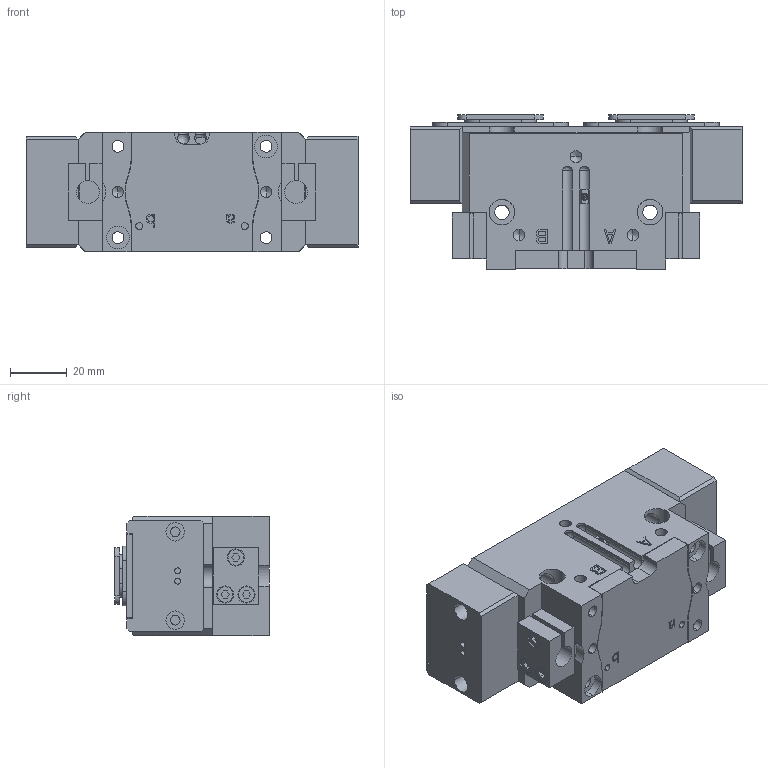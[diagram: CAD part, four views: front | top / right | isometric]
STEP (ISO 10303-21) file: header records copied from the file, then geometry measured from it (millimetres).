
FILE_DESCRIPTION (( 'STEP AP214' ), '1' );
FILE_NAME ('FPT 80A-1-SD.STEP', '2021-09-18T04:06:38', ( 'DEEP' ), ( 'Microsoft' ), 'SwSTEP 2.0', 'SolidWorks 2016', '' );
FILE_SCHEMA (( 'AUTOMOTIVE_DESIGN' ));
Length unit declared in the file: millimetre
Products named in the file (27): FPT80A-1-SD-004_1_1; FPT80A-1-SD-002_1_1; FPT 80A-1-SD; FPT80A-1_1_1; FPT80A-1-004_1_1; FPT80A-1-005_1_1; FPT80A-1-001_1_1; FPT80A-1-001-002_1_1; FPT80A-1-003_1_1; FPT80A-1-01-004_1; FPT80A-1-SD-001_1; FPT80A-1-SD-003_1_1
Assembly tree (16 placements, depth 3):
  FPT80A-1-SD-004_1_1
  FPT80A-1-SD-002_1_1
  FPT 80A-1-SD
    FPT80A-1-SD-002_1_1
    FPT80A-1-SD-004_1_1  x2
    FPT80A-1-SD-003_1_1  x2
    FPT80A-1-SD-001_1  x2
    FPT80A-1-01-004_1
    FPT80A-1_1_1
      FPT80A-1-003_1_1
      FPT80A-1-001-002_1_1
      FPT80A-1-001_1_1  x2
      FPT80A-1-005_1_1
      FPT80A-1-004_1_1  x2
  FPT80A-1-004_1_1
  FPT80A-1-005_1_1
Bounding box: 116.5 x 54.25 x 42 mm (x, y, z)
Volume: 173486.3 mm3; surface area: 70048.3 mm2
Topology: 15 solids, 15 shells, 859 faces, 2262 edges, 1453 vertices
Faces by surface type: plane 487, cylinder 277, cone 89, bspline 6
Entity records: 29862 total; most frequent: CARTESIAN_POINT 4456, DIRECTION 3615, ORIENTED_EDGE 3546, EDGE_CURVE 1773, LINE 1253, VECTOR 1253, AXIS2_PLACEMENT_3D 1181, VERTEX_POINT 1165
